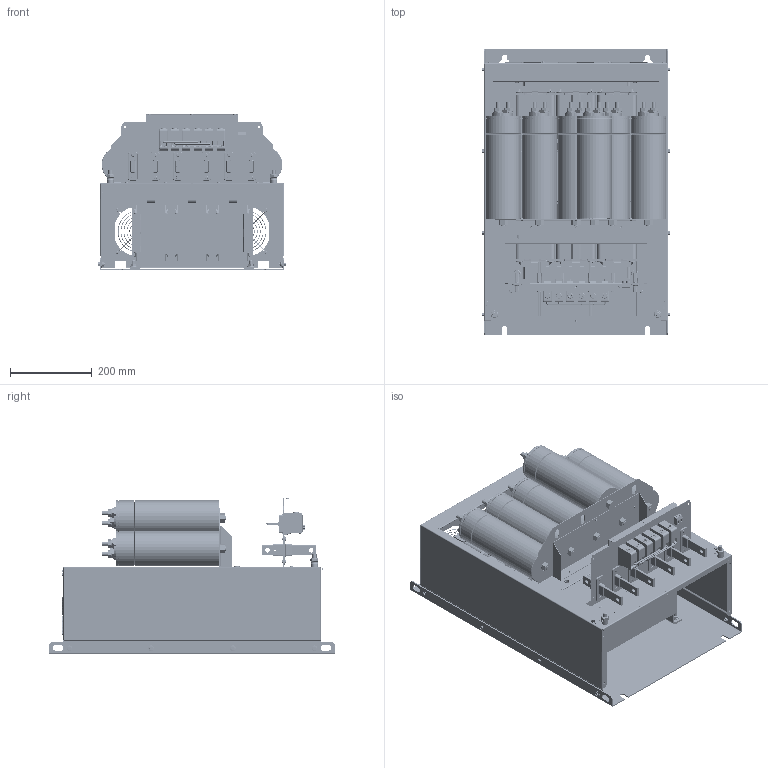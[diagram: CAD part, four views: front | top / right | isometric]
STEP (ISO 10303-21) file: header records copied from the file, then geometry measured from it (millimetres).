
FILE_DESCRIPTION(/* description */ (''),/* implementation_level */ '2;1');
FILE_NAME(/* name */ 'C:\Users\Erika.Jenzer\OneDrive - Schaffner EMV AG\Desktop\Neuer Ordner (2)\Plutus Reactors purchasing\CUSTOMER FS F IP00 6 CAPS.stp',/* time_stamp */ '2023-12-07T08:54:12+01:00',/* author */ ('erika.jenzer'),/* organization */ (''),/* preprocessor_version */ 'ST-DEVELOPER v18.1',/* originating_system */ 'Autodesk Inventor 2020',/* authorisation */ '');
FILE_SCHEMA (('AUTOMOTIVE_DESIGN { 1 0 10303 214 3 1 1 }'));
Products named in the file (1): CUSTOMER FS F IP00 6 CAPS
Bounding box: 459.59 x 700 x 384 mm (x, y, z)
Volume: 28414625 mm3; surface area: 3586386.9 mm2
Topology: 26 solids, 26 shells, 9689 faces, 26140 edges, 17023 vertices
Faces by surface type: plane 6494, cylinder 1895, bspline 511, cone 413, torus 376
Full cylindrical faces by diameter (mm): 1 x2, 2 x6, 2.8 x6, 3.242 x10, 3.4 x6, 3.5 x4, 4 x70, 4.1 x12, 4.3 x8, 4.5 x66, 5.2 x6, 5.4 x3, 5.5 x16, 6 x16, 6.5 x10, 6.8 x6, 7 x14, 7.9 x16, 8 x22, 8.7 x4, 9 x14, 9.188 x2, 9.9 x3, 10 x23, 10.5 x2, 11 x28, 11.05 x4, 12 x8, 12.5 x1, 12.7 x3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
Entity records: 338252 total; most frequent: CARTESIAN_POINT 88283, ORIENTED_EDGE 52400, DIRECTION 49716, EDGE_CURVE 26200, LINE 18046, VECTOR 18046, VERTEX_POINT 17023, AXIS2_PLACEMENT_3D 15835
